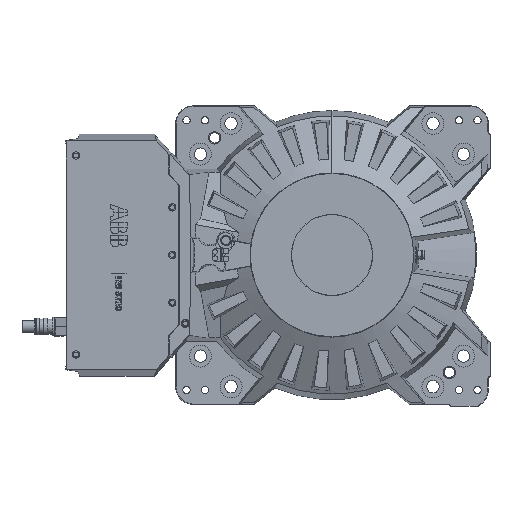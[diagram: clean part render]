
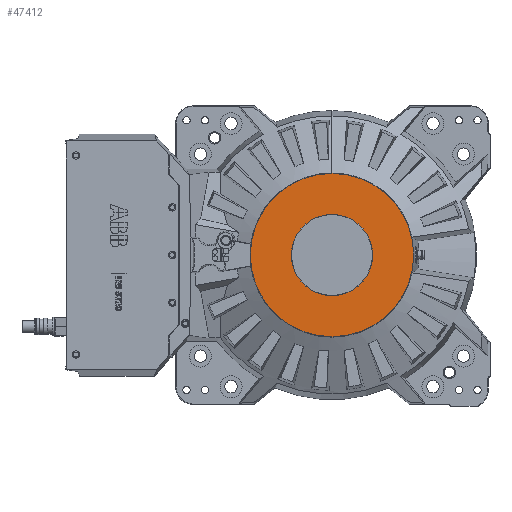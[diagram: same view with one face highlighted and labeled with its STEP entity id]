
A CAD part, top view. The second image highlights one B-rep face of the part: STEP entity #47412.
In plain terms, the highlighted planar face has unit normal (0, 0, 1).
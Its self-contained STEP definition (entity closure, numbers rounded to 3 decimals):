
#2609 = CARTESIAN_POINT ( 'NONE',  ( 0., 0., 215. ) ) ;
#3233 = CIRCLE ( 'NONE', #32582, 97.773 ) ;
#3532 = DIRECTION ( 'NONE',  ( 0., 0., 1. ) ) ;
#4980 = CIRCLE ( 'NONE', #17732, 196.886 ) ;
#5824 = ORIENTED_EDGE ( 'NONE', *, *, #58390, .T. ) ;
#6374 = CARTESIAN_POINT ( 'NONE',  ( 0., 196.886, 215. ) ) ;
#8751 = AXIS2_PLACEMENT_3D ( 'NONE', #23442, #55894, #13965 ) ;
#8796 = EDGE_CURVE ( 'NONE', #31537, #17632, #55712, .T. ) ;
#9274 = EDGE_LOOP ( 'NONE', ( #54295, #26474 ) ) ;
#10401 = FACE_OUTER_BOUND ( 'NONE', #44622, .T. ) ;
#13965 = DIRECTION ( 'NONE',  ( 0., -1., 0. ) ) ;
#15366 = VERTEX_POINT ( 'NONE', #31481 ) ;
#16234 = VERTEX_POINT ( 'NONE', #26578 ) ;
#17632 = VERTEX_POINT ( 'NONE', #41629 ) ;
#17732 = AXIS2_PLACEMENT_3D ( 'NONE', #38303, #33696, #33085 ) ;
#18924 = DIRECTION ( 'NONE',  ( 0., -1., 0. ) ) ;
#23442 = CARTESIAN_POINT ( 'NONE',  ( 0., 0., 215. ) ) ;
#24195 = DIRECTION ( 'NONE',  ( 0., -1., 0. ) ) ;
#26474 = ORIENTED_EDGE ( 'NONE', *, *, #47637, .F. ) ;
#26578 = CARTESIAN_POINT ( 'NONE',  ( 0., -97.773, 215. ) ) ;
#28876 = AXIS2_PLACEMENT_3D ( 'NONE', #29048, #51399, #18924 ) ;
#29048 = CARTESIAN_POINT ( 'NONE',  ( 0., 0., 215. ) ) ;
#29127 = PLANE ( 'NONE',  #40616 ) ;
#31481 = CARTESIAN_POINT ( 'NONE',  ( 0., 97.773, 215. ) ) ;
#31537 = VERTEX_POINT ( 'NONE', #6374 ) ;
#32582 = AXIS2_PLACEMENT_3D ( 'NONE', #2609, #3532, #36349 ) ;
#33085 = DIRECTION ( 'NONE',  ( 0., -1., 0. ) ) ;
#33696 = DIRECTION ( 'NONE',  ( 0., 0., 1. ) ) ;
#36349 = DIRECTION ( 'NONE',  ( 0., -1., 0. ) ) ;
#38303 = CARTESIAN_POINT ( 'NONE',  ( 0., 0., 215. ) ) ;
#40616 = AXIS2_PLACEMENT_3D ( 'NONE', #52968, #56939, #24195 ) ;
#41492 = ORIENTED_EDGE ( 'NONE', *, *, #8796, .T. ) ;
#41629 = CARTESIAN_POINT ( 'NONE',  ( 0., -196.886, 215. ) ) ;
#42619 = CIRCLE ( 'NONE', #28876, 97.773 ) ;
#44622 = EDGE_LOOP ( 'NONE', ( #5824, #41492 ) ) ;
#47412 = ADVANCED_FACE ( 'NONE', ( #51763, #10401 ), #29127, .T. ) ;
#47637 = EDGE_CURVE ( 'NONE', #15366, #16234, #42619, .T. ) ;
#51399 = DIRECTION ( 'NONE',  ( 0., 0., 1. ) ) ;
#51763 = FACE_BOUND ( 'NONE', #9274, .T. ) ;
#52968 = CARTESIAN_POINT ( 'NONE',  ( 97.773, 0., 215. ) ) ;
#53465 = EDGE_CURVE ( 'NONE', #16234, #15366, #3233, .T. ) ;
#54295 = ORIENTED_EDGE ( 'NONE', *, *, #53465, .F. ) ;
#55712 = CIRCLE ( 'NONE', #8751, 196.886 ) ;
#55894 = DIRECTION ( 'NONE',  ( 0., 0., 1. ) ) ;
#56939 = DIRECTION ( 'NONE',  ( 0., 0., 1. ) ) ;
#58390 = EDGE_CURVE ( 'NONE', #17632, #31537, #4980, .T. ) ;
